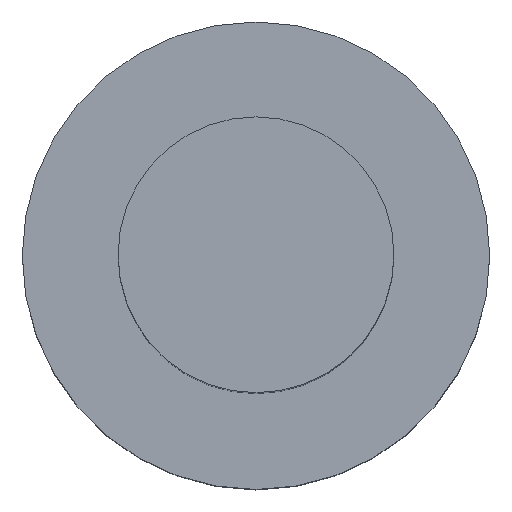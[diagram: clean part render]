
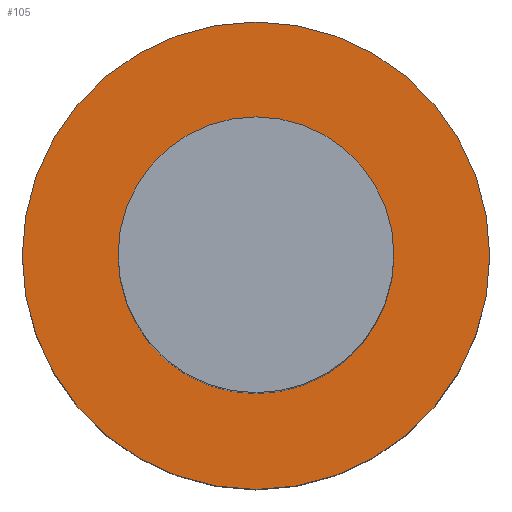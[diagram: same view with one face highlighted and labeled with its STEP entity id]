
A CAD part, top view. The second image highlights one B-rep face of the part: STEP entity #105.
In plain terms, the highlighted planar face has unit normal (0, 0, 1).
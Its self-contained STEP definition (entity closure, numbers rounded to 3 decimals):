
#21 = EDGE_CURVE('',#22,#22,#24,.T.);
#22 = VERTEX_POINT('',#23);
#23 = CARTESIAN_POINT('',(5.,0.,6.));
#24 = SURFACE_CURVE('',#25,(#30,#42),.PCURVE_S1.);
#25 = CIRCLE('',#26,5.);
#26 = AXIS2_PLACEMENT_3D('',#27,#28,#29);
#27 = CARTESIAN_POINT('',(0.,0.,6.));
#28 = DIRECTION('',(0.,0.,1.));
#29 = DIRECTION('',(1.,0.,-0.));
#30 = PCURVE('',#31,#36);
#31 = CYLINDRICAL_SURFACE('',#32,5.);
#32 = AXIS2_PLACEMENT_3D('',#33,#34,#35);
#33 = CARTESIAN_POINT('',(0.,0.,0.));
#34 = DIRECTION('',(0.,0.,1.));
#35 = DIRECTION('',(1.,0.,-0.));
#36 = DEFINITIONAL_REPRESENTATION('',(#37),#41);
#37 = LINE('',#38,#39);
#38 = CARTESIAN_POINT('',(0.,6.));
#39 = VECTOR('',#40,1.);
#40 = DIRECTION('',(1.,0.));
#41 = ( GEOMETRIC_REPRESENTATION_CONTEXT(2) 
PARAMETRIC_REPRESENTATION_CONTEXT() REPRESENTATION_CONTEXT('2D SPACE',''
  ) );
#42 = PCURVE('',#43,#48);
#43 = PLANE('',#44);
#44 = AXIS2_PLACEMENT_3D('',#45,#46,#47);
#45 = CARTESIAN_POINT('',(0.,0.,6.));
#46 = DIRECTION('',(0.,0.,1.));
#47 = DIRECTION('',(1.,0.,-0.));
#48 = DEFINITIONAL_REPRESENTATION('',(#49),#53);
#49 = CIRCLE('',#50,5.);
#50 = AXIS2_PLACEMENT_2D('',#51,#52);
#51 = CARTESIAN_POINT('',(0.,0.));
#52 = DIRECTION('',(1.,0.));
#53 = ( GEOMETRIC_REPRESENTATION_CONTEXT(2) 
PARAMETRIC_REPRESENTATION_CONTEXT() REPRESENTATION_CONTEXT('2D SPACE',''
  ) );
#105 = ADVANCED_FACE('',(#106,#109),#43,.T.);
#106 = FACE_BOUND('',#107,.T.);
#107 = EDGE_LOOP('',(#108));
#108 = ORIENTED_EDGE('',*,*,#21,.T.);
#109 = FACE_BOUND('',#110,.T.);
#110 = EDGE_LOOP('',(#111));
#111 = ORIENTED_EDGE('',*,*,#112,.F.);
#112 = EDGE_CURVE('',#113,#113,#115,.T.);
#113 = VERTEX_POINT('',#114);
#114 = CARTESIAN_POINT('',(2.95,0.,6.));
#115 = SURFACE_CURVE('',#116,(#121,#128),.PCURVE_S1.);
#116 = CIRCLE('',#117,2.95);
#117 = AXIS2_PLACEMENT_3D('',#118,#119,#120);
#118 = CARTESIAN_POINT('',(0.,0.,6.));
#119 = DIRECTION('',(0.,0.,1.));
#120 = DIRECTION('',(1.,0.,-0.));
#121 = PCURVE('',#43,#122);
#122 = DEFINITIONAL_REPRESENTATION('',(#123),#127);
#123 = CIRCLE('',#124,2.95);
#124 = AXIS2_PLACEMENT_2D('',#125,#126);
#125 = CARTESIAN_POINT('',(0.,0.));
#126 = DIRECTION('',(1.,0.));
#127 = ( GEOMETRIC_REPRESENTATION_CONTEXT(2) 
PARAMETRIC_REPRESENTATION_CONTEXT() REPRESENTATION_CONTEXT('2D SPACE',''
  ) );
#128 = PCURVE('',#129,#134);
#129 = CYLINDRICAL_SURFACE('',#130,2.95);
#130 = AXIS2_PLACEMENT_3D('',#131,#132,#133);
#131 = CARTESIAN_POINT('',(0.,0.,6.));
#132 = DIRECTION('',(0.,0.,1.));
#133 = DIRECTION('',(1.,0.,-0.));
#134 = DEFINITIONAL_REPRESENTATION('',(#135),#139);
#135 = LINE('',#136,#137);
#136 = CARTESIAN_POINT('',(0.,0.));
#137 = VECTOR('',#138,1.);
#138 = DIRECTION('',(1.,0.));
#139 = ( GEOMETRIC_REPRESENTATION_CONTEXT(2) 
PARAMETRIC_REPRESENTATION_CONTEXT() REPRESENTATION_CONTEXT('2D SPACE',''
  ) );
